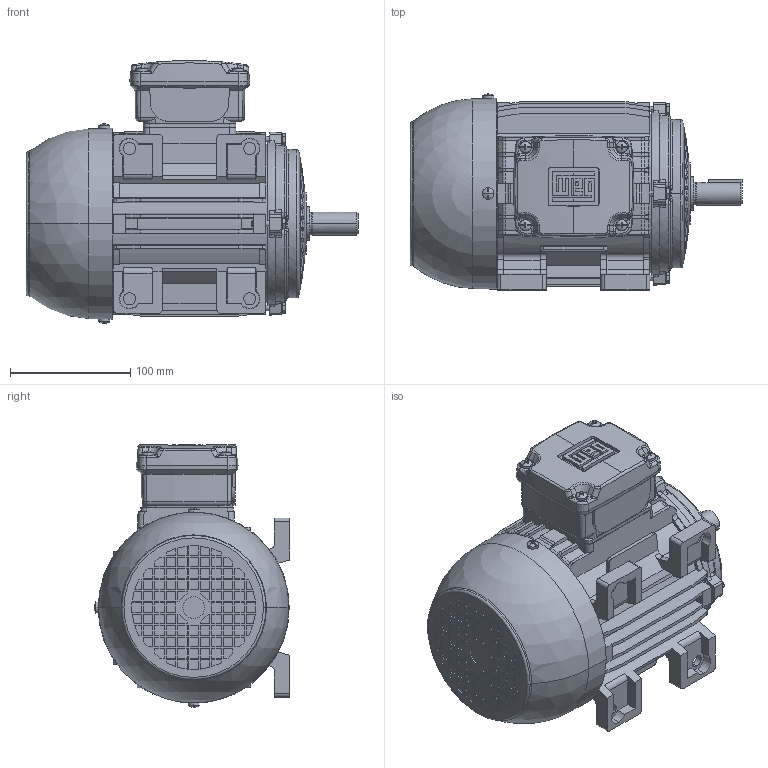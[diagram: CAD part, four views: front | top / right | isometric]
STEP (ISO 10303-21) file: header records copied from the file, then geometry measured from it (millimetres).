
FILE_DESCRIPTION (( 'STEP AP203' ), '1' );
FILE_NAME ('80_LEFT.STEP', '2007-06-27T11:50:07', ( '' ), ( '' ), 'SwSTEP 2.0', 'SolidWorks 2006303', '' );
FILE_SCHEMA (( 'CONFIG_CONTROL_DESIGN' ));
Length unit declared in the file: millimetre
Products named in the file (1): 80_LEFT
Bounding box: 276 x 162.91 x 218.41 mm (x, y, z)
Volume: 4145413 mm3; surface area: 266527.1 mm2
Topology: 1 solids, 2 shells, 1766 faces, 4651 edges, 3007 vertices
Faces by surface type: plane 997, cylinder 234, cone 182, bspline 180, torus 121, sphere 52
Entity records: 60841 total; most frequent: CARTESIAN_POINT 18813, ORIENTED_EDGE 9286, DIRECTION 8042, EDGE_CURVE 4643, VERTEX_POINT 3007, AXIS2_PLACEMENT_3D 2720, LINE 2602, VECTOR 2602
